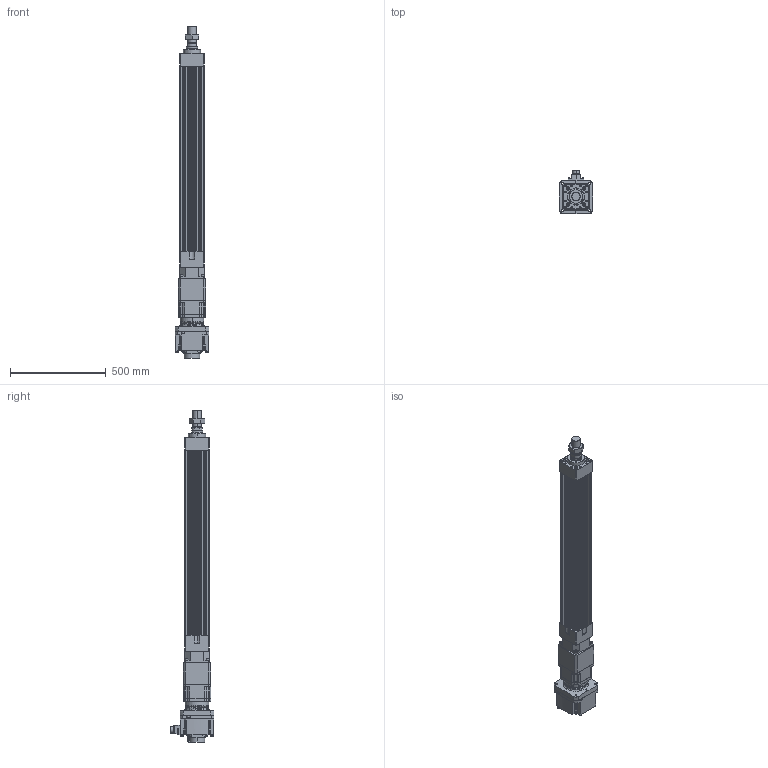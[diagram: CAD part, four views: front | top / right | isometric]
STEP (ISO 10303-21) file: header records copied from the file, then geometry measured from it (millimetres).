
FILE_DESCRIPTION (( 'STEP AP203' ), '1' );
FILE_NAME ('HES130FS(HS)-S750-W020G00-M.STEP', '2023-01-30T12:07:16', ( 'tms' ), ( '' ), 'SwSTEP 2.0', 'SolidWorks 2013', '' );
FILE_SCHEMA (( 'CONFIG_CONTROL_DESIGN' ));
Length unit declared in the file: millimetre
Products named in the file (9): HES130 ROD M ST750; AB1421; HES130-S750-G142; M45X1.5P; P0403500801; HES130FS(HS)-S750-W020G00-M; P1301500001; HG-SR202; AB142-003[HG-SR352]
Assembly tree (8 placements, depth 3):
  HES130FS(HS)-S750-W020G00-M
    HES130-S750-G142
    HES130 ROD M ST750
    M45X1.5P
    AB142-003[HG-SR352]
      AB1421
      P1301500001
      P0403500801
    HG-SR202
Bounding box: 176 x 228.85 x 1737.5 mm (x, y, z)
Volume: 14952176.2 mm3; surface area: 1986023 mm2
Topology: 4 solids, 22 shells, 1527 faces, 3928 edges, 2530 vertices
Faces by surface type: cylinder 683, plane 580, cone 182, bspline 76, torus 6
Entity records: 55214 total; most frequent: CARTESIAN_POINT 16756, DIRECTION 8052, ORIENTED_EDGE 7718, EDGE_CURVE 3881, AXIS2_PLACEMENT_3D 3043, VERTEX_POINT 2530, VECTOR 1966, LINE 1966
